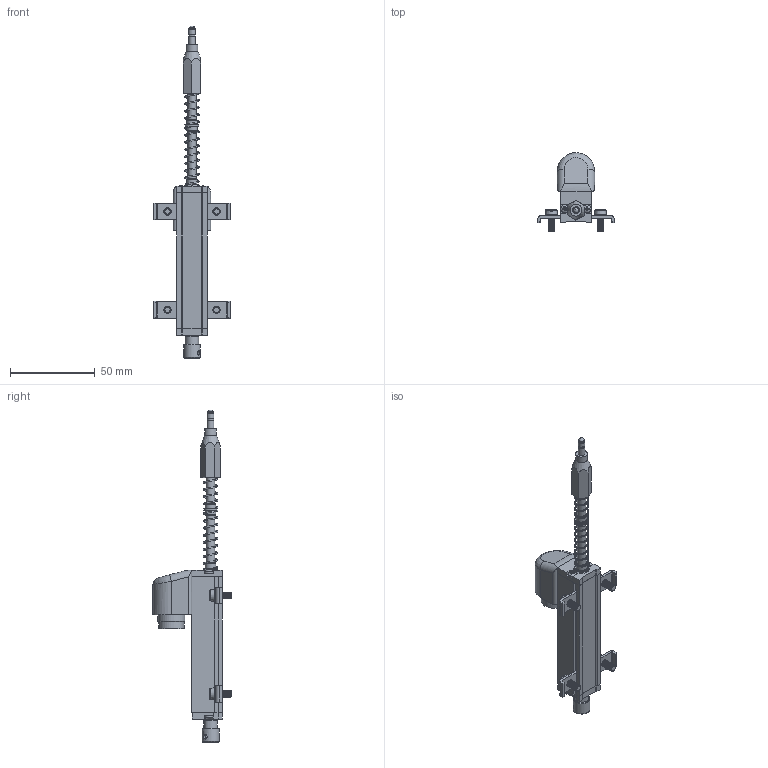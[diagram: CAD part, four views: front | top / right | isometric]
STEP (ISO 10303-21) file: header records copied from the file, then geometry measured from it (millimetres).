
FILE_DESCRIPTION (( 'STEP AP214' ), '1' );
FILE_NAME ('CR18 5-Pole.STEP', '2019-04-24T13:23:39', ( '' ), ( '' ), 'SwSTEP 2.0', 'SolidWorks 2017', '' );
FILE_SCHEMA (( 'AUTOMOTIVE_DESIGN' ));
Length unit declared in the file: millimetre
Products named in the file (19): TES053X; CON010X; PY-2-C-050; STA029X; CR18 5-Pole; MIM828X_ISO 7045 - M2.5 x 8 - Z --- 8S; CUS046X; TES049X; ALB061X; Spring1; BUS015X; BUS022X; PTAS000X; TAS000X_Assemblato; BUS023X; MIM892X_ISO 1207 - M4 x 10 --- 10S; MIM600X; PUN001X; MIM510X_DIN 6905-3.6-FSt
Assembly tree (32 placements, depth 4):
  CR18 5-Pole
    PY-2-C-050
      TES049X
      MIM828X_ISO 7045 - M2.5 x 8 - Z --- 8S  x4
      CON010X
      TES053X
      STA029X  x4
      MIM510X_DIN 6905-3.6-FSt  x4
      MIM892X_ISO 1207 - M4 x 10 --- 10S  x4
      BUS015X
      PTAS000X
        TAS000X_Assemblato
        MIM600X
      BUS022X  x2
      BUS023X
      CUS046X
      ALB061X
      PUN001X
      Spring1  x2
Bounding box: 45 x 46.3 x 195.99 mm (x, y, z)
Volume: 43731.5 mm3; surface area: 25804.5 mm2
Topology: 29 solids, 35 shells, 896 faces, 1971 edges, 1165 vertices
Faces by surface type: cone 311, plane 296, cylinder 234, torus 36, sphere 15, bspline 4
Full cylindrical faces by diameter (mm): 1.1 x5, 1.6 x6, 2 x1, 2.3 x2, 2.5 x71, 2.6 x1, 2.7 x4, 3.2 x3, 3.8 x2, 4 x60, 4.3 x4, 5 x5, 5.1 x3, 6 x2, 6.3 x4, 7 x2, 7.8 x3, 8 x1, 8.5 x1, 10 x1, 13.5 x1, 14.5 x1, 15 x1, 16 x2, 18 x1, 18.1 x1, 20 x1, 20.2 x1
Entity records: 12426 total; most frequent: CARTESIAN_POINT 3523, DIRECTION 1808, ORIENTED_EDGE 1317, AXIS2_PLACEMENT_3D 767, EDGE_CURVE 662, EDGE_LOOP 644, VERTEX_POINT 515, FACE_OUTER_BOUND 498
